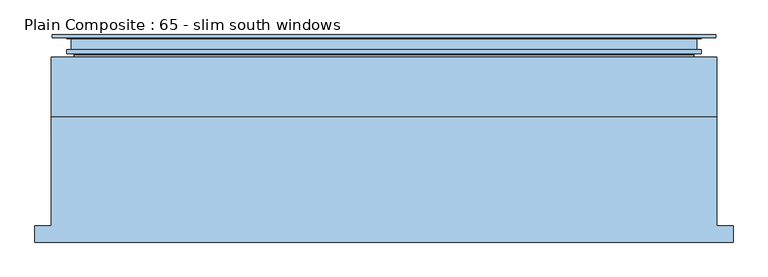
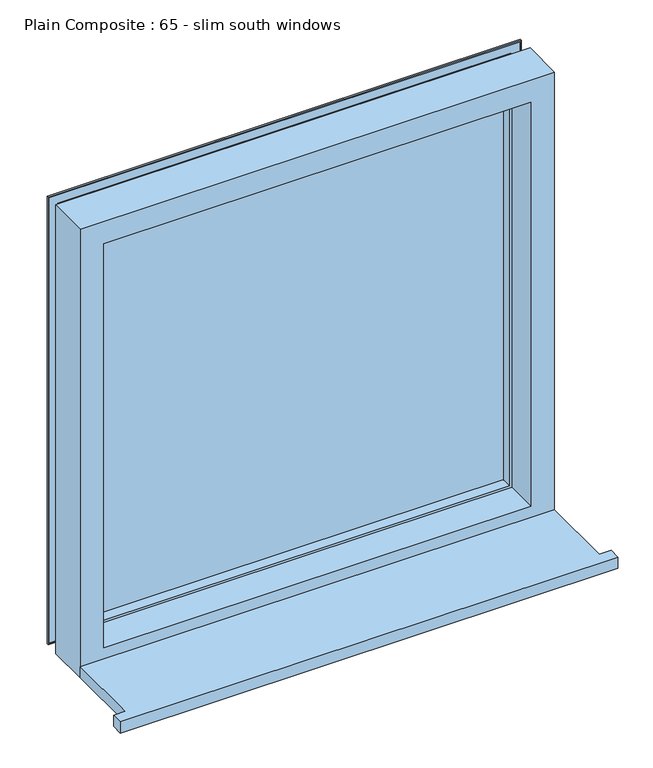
"""IFC4 building model written with IfcOpenShell, lengths in millimetres: window geometry, Plain Composite : 65 - slim south windows."""

from ifc_helpers import new_model, si_unit, frame, origin, place, context, project, spatial, polyline, outline, extrude, faceted_brep, source, transform, mapped, element, save


def plain_composite_65_slim_south_windows_6b0d4d13(model_context):
    return source(origin(), model_context, "Body", "SolidModel", [
        extrude(outline(polyline([(-820.0, -161.5434322), (-820.0, -136.5434322), (-795.0, -136.5434322), (-795.0, 29.4565678), (215.0, 29.4565678), (215.0, -136.5434322), (240.0, -136.5434322), (240.0, -161.5434322), (-820.0, -161.5434322)])), frame((0.0, 0.0, 1100.0), z_axis=(0.0, 0.0, 1.0), x_axis=(1.0, 0.0, 0.0)), (0.0, 0.0, 1.0), 25.0),
        extrude(outline(polyline([(172.0, 123.4565678), (-752.0, 123.4565678), (-752.0, 147.4565678), (172.0, 147.4565678), (172.0, 123.4565678)])), frame((0.0, 0.0, 1143.0), z_axis=(0.0, 0.0, 1.0), x_axis=(1.0, 0.0, 0.0)), (0.0, 0.0, 1.0), 924.0),
        faceted_brep([(-740.0, 147.4565678, 1155.0), (-740.0, 153.4565678, 1155.0), (-740.0, 153.4565678, 2055.0), (-740.0, 147.4565678, 2055.0), (-752.0, 123.4565678, 1143.0), (-752.0, 147.4565678, 1143.0), (-752.0, 147.4565678, 2067.0), (-752.0, 123.4565678, 2067.0), (-740.0, 100.4565678, 1155.0), (-740.0, 123.4565678, 1155.0), (-740.0, 123.4565678, 2055.0), (-740.0, 100.4565678, 2055.0), (-762.3761005, 103.766907, 1132.6238995), (-762.3761005, 100.4565678, 1132.6238995), (-762.3761005, 100.4565678, 2077.3761005), (-762.3761005, 103.766907, 2077.3761005), (-760.3055676, 104.9623297, 1134.6944324), (-760.3055676, 104.9623297, 2075.3055676), (-760.3055676, 122.3525929, 1134.6944324), (-760.3055676, 122.3525929, 2075.3055676), (-765.0, 127.0470253, 1130.0), (-765.0, 127.0470253, 2080.0), (-770.0, 125.0470253, 1125.0), (-770.0, 127.0470253, 1125.0), (-770.0, 127.0470253, 2085.0), (-770.0, 125.0470253, 2085.0), (-772.0, 131.0470253, 1123.0), (-772.0, 125.0470253, 1123.0), (-772.0, 125.0470253, 2087.0), (-772.0, 131.0470253, 2087.0), (-770.0, 129.0470253, 1125.0), (-770.0, 131.0470253, 1125.0), (-770.0, 131.0470253, 2085.0), (-770.0, 129.0470253, 2085.0), (-765.0, 149.4565678, 1130.0), (-765.0, 129.0470253, 1130.0), (-765.0, 129.0470253, 2080.0), (-765.0, 149.4565678, 2080.0), (-770.0, 147.4565678, 1125.0), (-770.0, 149.4565678, 1125.0), (-770.0, 149.4565678, 2085.0), (-770.0, 147.4565678, 2085.0), (-772.0, 151.4565678, 1123.0), (-772.0, 147.4565678, 1123.0), (-772.0, 147.4565678, 2087.0), (-772.0, 151.4565678, 2087.0), (-792.0, 149.4565678, 1103.0), (-792.0, 151.4565678, 1103.0), (-792.0, 151.4565678, 2107.0), (-792.0, 149.4565678, 2107.0), (-794.0, 153.4565678, 1101.0), (-794.0, 149.4565678, 1101.0), (-794.0, 149.4565678, 2109.0), (-794.0, 153.4565678, 2109.0), (160.0, 153.4565678, 2055.0), (160.0, 147.4565678, 2055.0), (172.0, 147.4565678, 2067.0), (172.0, 123.4565678, 2067.0), (160.0, 123.4565678, 2055.0), (160.0, 100.4565678, 2055.0), (182.3761005, 100.4565678, 2077.3761005), (182.3761005, 103.766907, 2077.3761005), (180.3055676, 104.9623297, 2075.3055676), (180.3055676, 122.3525929, 2075.3055676), (185.0, 127.0470253, 2080.0), (190.0, 127.0470253, 2085.0), (190.0, 125.0470253, 2085.0), (192.0, 125.0470253, 2087.0), (192.0, 131.0470253, 2087.0), (190.0, 131.0470253, 2085.0), (190.0, 129.0470253, 2085.0), (185.0, 129.0470253, 2080.0), (185.0, 149.4565678, 2080.0), (190.0, 149.4565678, 2085.0), (190.0, 147.4565678, 2085.0), (192.0, 147.4565678, 2087.0), (192.0, 151.4565678, 2087.0), (212.0, 151.4565678, 2107.0), (212.0, 149.4565678, 2107.0), (214.0, 149.4565678, 2109.0), (214.0, 153.4565678, 2109.0), (160.0, 153.4565678, 1155.0), (160.0, 147.4565678, 1155.0), (172.0, 147.4565678, 1143.0), (172.0, 123.4565678, 1143.0), (160.0, 123.4565678, 1155.0), (160.0, 100.4565678, 1155.0), (182.3761005, 100.4565678, 1132.6238995), (182.3761005, 103.766907, 1132.6238995), (180.3055676, 104.9623297, 1134.6944324), (180.3055676, 122.3525929, 1134.6944324), (185.0, 127.0470253, 1130.0), (190.0, 127.0470253, 1125.0), (190.0, 125.0470253, 1125.0), (192.0, 125.0470253, 1123.0), (192.0, 131.0470253, 1123.0), (190.0, 131.0470253, 1125.0), (190.0, 129.0470253, 1125.0), (185.0, 129.0470253, 1130.0), (185.0, 149.4565678, 1130.0), (190.0, 149.4565678, 1125.0), (190.0, 147.4565678, 1125.0), (192.0, 147.4565678, 1123.0), (192.0, 151.4565678, 1123.0), (212.0, 151.4565678, 1103.0), (212.0, 149.4565678, 1103.0), (214.0, 149.4565678, 1101.0), (214.0, 153.4565678, 1101.0)], [[[0, 1, 2, 3]], [[4, 5, 6, 7]], [[8, 9, 10, 11]], [[12, 13, 14, 15]], [[16, 12, 15, 17]], [[18, 16, 17, 19]], [[20, 18, 19, 21]], [[22, 23, 24, 25]], [[26, 27, 28, 29]], [[30, 31, 32, 33]], [[34, 35, 36, 37]], [[38, 39, 40, 41]], [[42, 43, 44, 45]], [[46, 47, 48, 49]], [[50, 51, 52, 53]], [[3, 2, 54, 55]], [[7, 6, 56, 57]], [[11, 10, 58, 59]], [[15, 14, 60, 61]], [[17, 15, 61, 62]], [[19, 17, 62, 63]], [[21, 19, 63, 64]], [[25, 24, 65, 66]], [[29, 28, 67, 68]], [[33, 32, 69, 70]], [[37, 36, 71, 72]], [[41, 40, 73, 74]], [[45, 44, 75, 76]], [[49, 48, 77, 78]], [[53, 52, 79, 80]], [[55, 54, 81, 82]], [[57, 56, 83, 84]], [[59, 58, 85, 86]], [[61, 60, 87, 88]], [[62, 61, 88, 89]], [[63, 62, 89, 90]], [[64, 63, 90, 91]], [[66, 65, 92, 93]], [[68, 67, 94, 95]], [[70, 69, 96, 97]], [[72, 71, 98, 99]], [[74, 73, 100, 101]], [[76, 75, 102, 103]], [[78, 77, 104, 105]], [[80, 79, 106, 107]], [[53, 80, 107, 50], [1, 81, 54, 2]], [[82, 81, 1, 0]], [[5, 83, 56, 6], [3, 55, 82, 0]], [[84, 83, 5, 4]], [[7, 57, 84, 4], [9, 85, 58, 10]], [[86, 85, 9, 8]], [[13, 87, 60, 14], [11, 59, 86, 8]], [[88, 87, 13, 12]], [[89, 88, 12, 16]], [[90, 89, 16, 18]], [[91, 90, 18, 20]], [[23, 92, 65, 24], [21, 64, 91, 20]], [[93, 92, 23, 22]], [[27, 94, 67, 28], [25, 66, 93, 22]], [[95, 94, 27, 26]], [[29, 68, 95, 26], [31, 96, 69, 32]], [[97, 96, 31, 30]], [[33, 70, 97, 30], [35, 98, 71, 36]], [[99, 98, 35, 34]], [[39, 100, 73, 40], [37, 72, 99, 34]], [[101, 100, 39, 38]], [[43, 102, 75, 44], [41, 74, 101, 38]], [[103, 102, 43, 42]], [[47, 104, 77, 48], [45, 76, 103, 42]], [[105, 104, 47, 46]], [[51, 106, 79, 52], [49, 78, 105, 46]], [[107, 106, 51, 50]]]),
        faceted_brep([(-795.0, 119.4565678, 1100.0), (-795.0, 29.4565678, 1100.0), (-795.0, 29.4565678, 2110.0), (-795.0, 119.4565678, 2110.0), (-770.0, 99.4565678, 1125.0), (-772.8108167, 119.4565678, 1122.1891833), (-772.8108167, 119.4565678, 2087.8108167), (-770.0, 99.4565678, 2085.0), (-745.0, 29.4565678, 1150.0), (-745.0, 99.4565678, 1150.0), (-745.0, 99.4565678, 2060.0), (-745.0, 29.4565678, 2060.0), (215.0, 29.4565678, 2110.0), (215.0, 119.4565678, 2110.0), (192.8108167, 119.4565678, 2087.8108167), (190.0, 99.4565678, 2085.0), (165.0, 99.4565678, 2060.0), (165.0, 29.4565678, 2060.0), (215.0, 29.4565678, 1100.0), (215.0, 119.4565678, 1100.0), (192.8108167, 119.4565678, 1122.1891833), (190.0, 99.4565678, 1125.0), (165.0, 99.4565678, 1150.0), (165.0, 29.4565678, 1150.0)], [[[0, 1, 2, 3]], [[4, 5, 6, 7]], [[8, 9, 10, 11]], [[3, 2, 12, 13]], [[7, 6, 14, 15]], [[11, 10, 16, 17]], [[13, 12, 18, 19]], [[15, 14, 20, 21]], [[17, 16, 22, 23]], [[1, 18, 12, 2], [11, 17, 23, 8]], [[19, 18, 1, 0]], [[3, 13, 19, 0], [5, 20, 14, 6]], [[21, 20, 5, 4]], [[7, 15, 21, 4], [9, 22, 16, 10]], [[23, 22, 9, 8]]]),
    ])


if __name__ == "__main__":
    model = new_model("IFC4")
    model_context = context("Model", 3, world=origin())
    ifc_project = project(units=[si_unit("LENGTHUNIT", "METRE", prefix="MILLI")], contexts=[model_context])
    site = spatial("IfcSite", under=ifc_project)
    building = spatial("IfcBuilding", under=site)
    placement = place(None, origin())
    plain_composite_65_slim_south_windows_shape = plain_composite_65_slim_south_windows_6b0d4d13(model_context)
    element("IfcWindow", 1, ObjectType="Plain Composite : 65 - slim south windows", at=placement, inside=building, context=model_context, shape_type="MappedRepresentation", body=[
        mapped(plain_composite_65_slim_south_windows_shape, transform((0.0, 0.0, 0.0), x_axis=(1.0, 0.0, 0.0), y_axis=(0.0, 1.0, 0.0), z_axis=(0.0, 0.0, 1.0))),
    ])
    save(model, "model.ifc")
